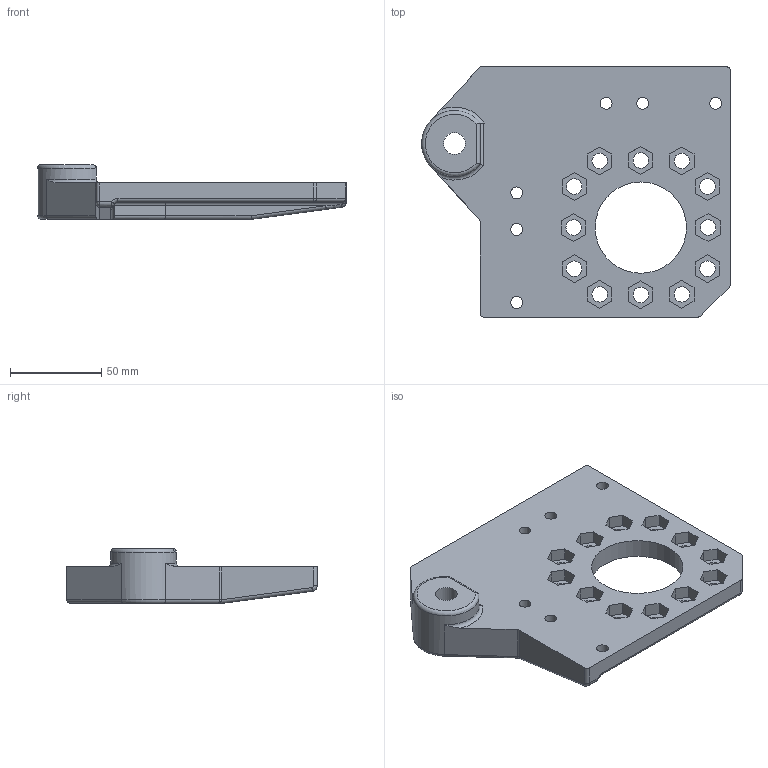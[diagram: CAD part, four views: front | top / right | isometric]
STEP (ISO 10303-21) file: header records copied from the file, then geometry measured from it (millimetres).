
FILE_DESCRIPTION(('STEP AP214'),'1');
FILE_NAME('APDC_M12R.stp','2017-07-21T06:28:15',(' '),(' '),'Spatial InterOp 3D',' ',' ');
FILE_SCHEMA(('automotive_design'));
Length unit declared in the file: millimetre
Products named in the file (1): APDC_M12R
Bounding box: 168.98 x 137 x 30 mm (x, y, z)
Volume: 219704.5 mm3; surface area: 53819.3 mm2
Topology: 1 solids, 1 shells, 164 faces, 432 edges, 280 vertices
Faces by surface type: plane 102, cylinder 46, bspline 8, torus 6, sphere 2
Full cylindrical faces by diameter (mm): 6.5 x6, 8.5 x12, 12 x1, 50 x1
Entity records: 7123 total; most frequent: CARTESIAN_POINT 1814, ORIENTED_EDGE 796, DIRECTION 786, EDGE_CURVE 398, LINE 284, VECTOR 284, VERTEX_POINT 268, AXIS2_PLACEMENT_3D 251
